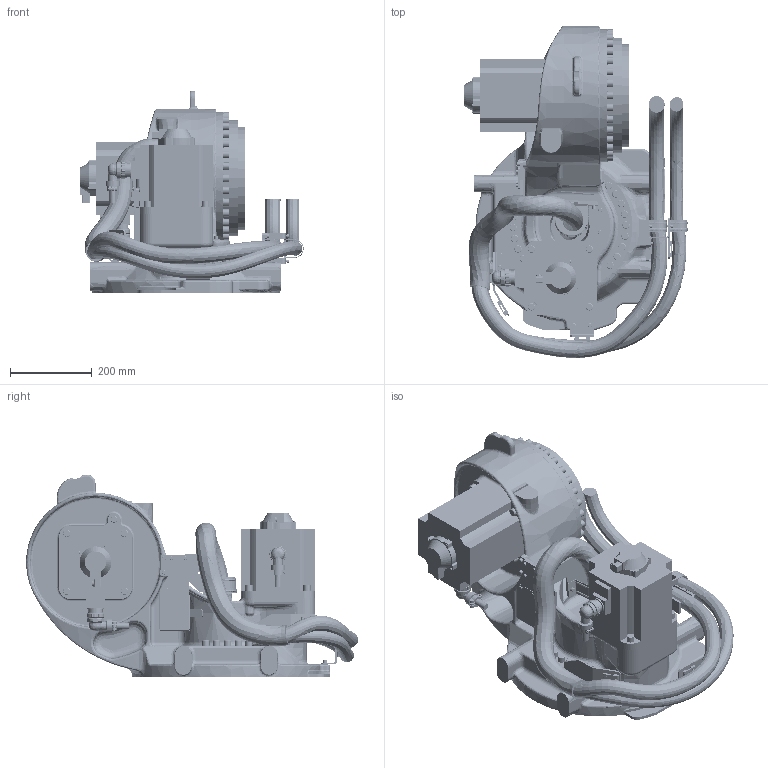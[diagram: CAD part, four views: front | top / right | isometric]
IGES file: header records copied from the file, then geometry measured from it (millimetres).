
Start section:  PTC IGES file: s_axis_gp110_sw2.igs
Global section: file name: s_axis_gp110_sw2.igs; native system: Creo Parametric by Parametric Technology Corporation; preprocessor: 2015030; author: robo228; organization: Unknown; date: 20171226.145532; units: millimetre
Bounding box: 546.49 x 812.17 x 494.93 mm (x, y, z)
Volume: 38894849 mm3; surface area: 2830665.1 mm2
Topology: 2 solids, 53 shells, 3963 faces, 9681 edges, 6155 vertices
Faces by surface type: revolution 2479, bspline 1478, extrusion 6
